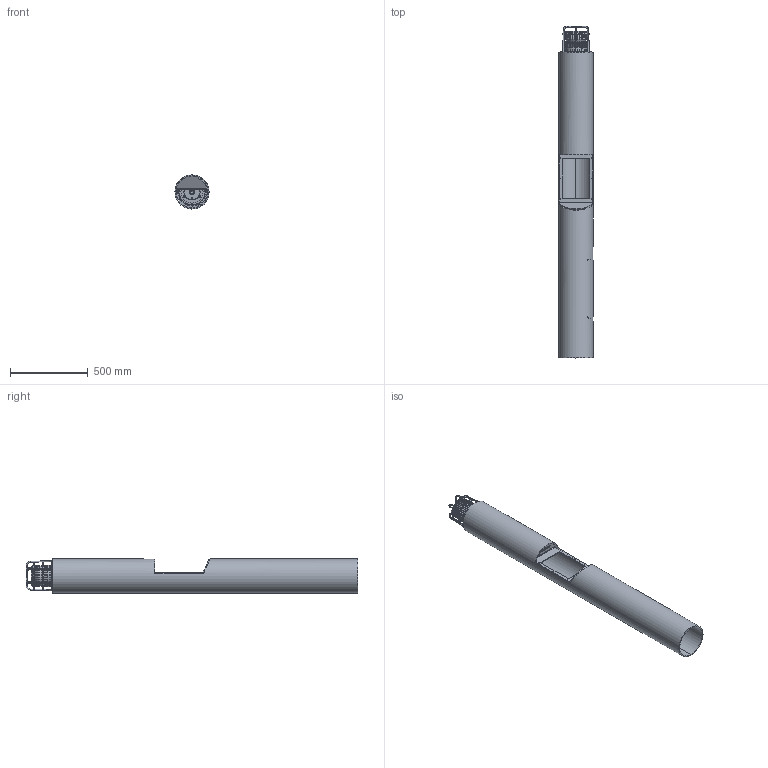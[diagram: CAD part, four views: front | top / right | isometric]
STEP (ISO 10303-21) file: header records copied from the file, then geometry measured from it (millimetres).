
FILE_DESCRIPTION (( 'STEP AP203' ), '1' );
FILE_NAME ('cad-125_CB5-p_dwg.STEP', '2019-05-03T01:47:07', ( '' ), ( '' ), 'SwSTEP 2.0', 'SolidWorks 2018', '' );
FILE_SCHEMA (( 'CONFIG_CONTROL_DESIGN' ));
Length unit declared in the file: inch
Products named in the file (1): cad-125_CB5-p_dwg
Bounding box: 219.07 x 2132.33 x 219.07 mm (x, y, z)
Volume: 9261740.3 mm3; surface area: 3189930.1 mm2
Topology: 25 solids, 25 shells, 1106 faces, 2998 edges, 1948 vertices
Faces by surface type: plane 450, cylinder 371, cone 163, bspline 122
Entity records: 45051 total; most frequent: CARTESIAN_POINT 18251, ORIENTED_EDGE 5952, DIRECTION 5158, EDGE_CURVE 2976, AXIS2_PLACEMENT_3D 1951, VERTEX_POINT 1948, EDGE_LOOP 1264, LINE 1256
